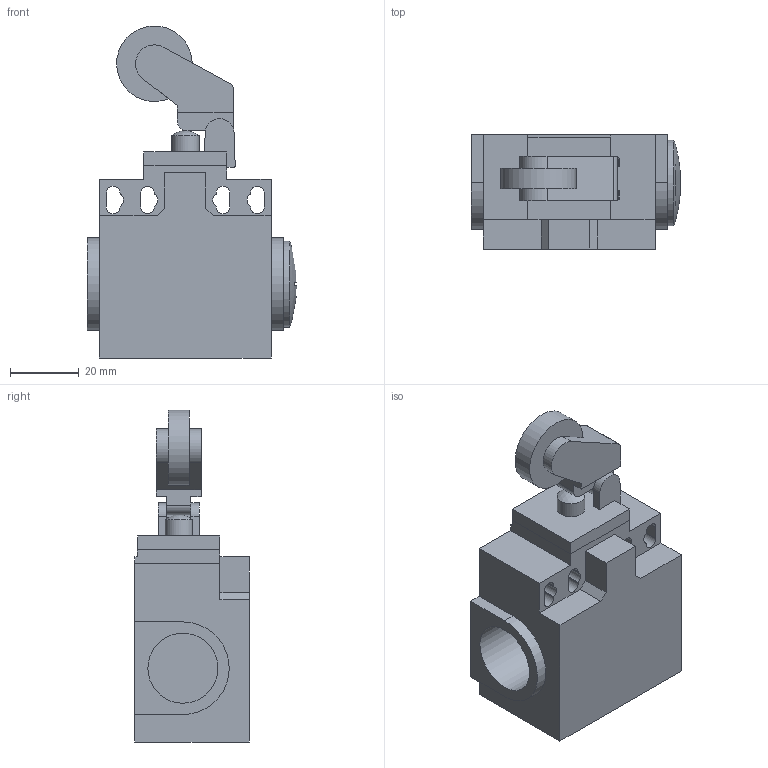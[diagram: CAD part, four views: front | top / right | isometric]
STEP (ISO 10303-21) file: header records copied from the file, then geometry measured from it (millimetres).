
FILE_DESCRIPTION((''),'2;1');
FILE_NAME('D:\Documenti_D\Corrispondenza\Comepi\Catalogo da fare\Modelli Nov 2011\DP\STEP\DP1-T38.iam.step','2011-11-17T12:04:51',(''),(''),'Autodesk Inventor 2010','Autodesk Inventor 2010','');
FILE_SCHEMA(('AUTOMOTIVE_DESIGN { 1 0 10303 214 1 1 1 1 }'));
Length unit declared in the file: millimetre
Products named in the file (8): DP1-T38; DP1; tappo; T38.iam; T38_1; T38_2; T38_3
Assembly tree (7 placements, depth 3):
  DP1-T38
    DP1
      DP1
      tappo
    T38.iam
      T38_1
      T38_2
      T38_3
Bounding box: 60.92 x 33.3 x 96.7 mm (x, y, z)
Volume: 79485.1 mm3; surface area: 23963.8 mm2
Topology: 5 solids, 5 shells, 110 faces, 293 edges, 194 vertices
Faces by surface type: plane 79, cylinder 28, sphere 2, cone 1
Full cylindrical faces by diameter (mm): 8 x2, 20.4 x1, 25 x1
Entity records: 3645 total; most frequent: CARTESIAN_POINT 605, DIRECTION 598, ORIENTED_EDGE 574, EDGE_CURVE 287, VECTOR 226, LINE 226, VERTEX_POINT 193, AXIS2_PLACEMENT_3D 186
